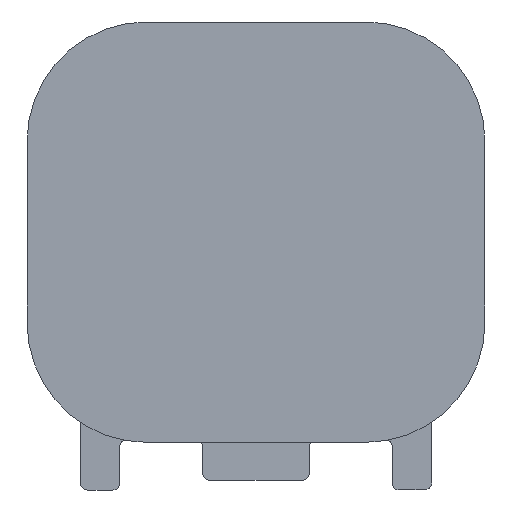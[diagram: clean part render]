
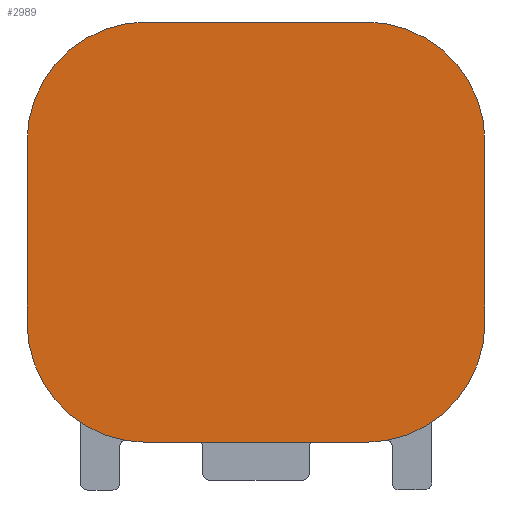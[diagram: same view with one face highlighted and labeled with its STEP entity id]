
A CAD part, front view. The second image highlights one B-rep face of the part: STEP entity #2989.
In plain terms, the highlighted planar face has unit normal (0, -1, 0).
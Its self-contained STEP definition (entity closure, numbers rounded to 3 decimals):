
#2918=CARTESIAN_POINT('Axis2P3D Location',(0.,-1.5,0.)) ;
#2923=CARTESIAN_POINT('Axis2P3D Location',(3.8,-1.5,3.15)) ;
#2927=CARTESIAN_POINT('Vertex',(7.931,-1.5,3.15)) ;
#2929=CARTESIAN_POINT('Vertex',(3.8,-1.5,7.281)) ;
#2932=CARTESIAN_POINT('Line Origine',(0.,-1.5,7.281)) ;
#2936=CARTESIAN_POINT('Vertex',(-3.8,-1.5,7.281)) ;
#2939=CARTESIAN_POINT('Axis2P3D Location',(-3.8,-1.5,3.15)) ;
#2943=CARTESIAN_POINT('Vertex',(-7.931,-1.5,3.15)) ;
#2946=CARTESIAN_POINT('Line Origine',(-7.931,-1.5,0.)) ;
#2950=CARTESIAN_POINT('Vertex',(-7.931,-1.5,-3.15)) ;
#2953=CARTESIAN_POINT('Axis2P3D Location',(-3.8,-1.5,-3.15)) ;
#2957=CARTESIAN_POINT('Vertex',(-3.8,-1.5,-7.281)) ;
#2960=CARTESIAN_POINT('Line Origine',(0.,-1.5,-7.281)) ;
#2964=CARTESIAN_POINT('Vertex',(3.8,-1.5,-7.281)) ;
#2967=CARTESIAN_POINT('Axis2P3D Location',(3.8,-1.5,-3.15)) ;
#2971=CARTESIAN_POINT('Vertex',(7.931,-1.5,-3.15)) ;
#2974=CARTESIAN_POINT('Line Origine',(7.931,-1.5,0.)) ;
#2934=VECTOR('Line Direction',#2933,1.) ;
#2948=VECTOR('Line Direction',#2947,1.) ;
#2962=VECTOR('Line Direction',#2961,1.) ;
#2976=VECTOR('Line Direction',#2975,1.) ;
#2919=DIRECTION('Axis2P3D Direction',(0.,1.,0.)) ;
#2920=DIRECTION('Axis2P3D XDirection',(0.,0.,1.)) ;
#2924=DIRECTION('Axis2P3D Direction',(0.,1.,0.)) ;
#2933=DIRECTION('Vector Direction',(-1.,0.,0.)) ;
#2940=DIRECTION('Axis2P3D Direction',(0.,1.,0.)) ;
#2947=DIRECTION('Vector Direction',(0.,0.,1.)) ;
#2954=DIRECTION('Axis2P3D Direction',(0.,1.,0.)) ;
#2961=DIRECTION('Vector Direction',(1.,0.,0.)) ;
#2968=DIRECTION('Axis2P3D Direction',(0.,1.,0.)) ;
#2975=DIRECTION('Vector Direction',(0.,0.,1.)) ;
#2921=AXIS2_PLACEMENT_3D('Plane Axis2P3D',#2918,#2919,#2920) ;
#2925=AXIS2_PLACEMENT_3D('Circle Axis2P3D',#2923,#2924,$) ;
#2941=AXIS2_PLACEMENT_3D('Circle Axis2P3D',#2939,#2940,$) ;
#2955=AXIS2_PLACEMENT_3D('Circle Axis2P3D',#2953,#2954,$) ;
#2969=AXIS2_PLACEMENT_3D('Circle Axis2P3D',#2967,#2968,$) ;
#2935=LINE('Line',#2932,#2934) ;
#2949=LINE('Line',#2946,#2948) ;
#2963=LINE('Line',#2960,#2962) ;
#2977=LINE('Line',#2974,#2976) ;
#2926=CIRCLE('generated circle',#2925,4.131) ;
#2942=CIRCLE('generated circle',#2941,4.131) ;
#2956=CIRCLE('generated circle',#2955,4.131) ;
#2970=CIRCLE('generated circle',#2969,4.131) ;
#2922=PLANE('',#2921) ;
#2931=EDGE_CURVE('',#2928,#2930,#2926,.F.) ;
#2938=EDGE_CURVE('',#2930,#2937,#2935,.T.) ;
#2945=EDGE_CURVE('',#2937,#2944,#2942,.F.) ;
#2952=EDGE_CURVE('',#2944,#2951,#2949,.F.) ;
#2959=EDGE_CURVE('',#2951,#2958,#2956,.F.) ;
#2966=EDGE_CURVE('',#2958,#2965,#2963,.T.) ;
#2973=EDGE_CURVE('',#2965,#2972,#2970,.F.) ;
#2978=EDGE_CURVE('',#2972,#2928,#2977,.T.) ;
#2980=ORIENTED_EDGE('',*,*,#2931,.T.) ;
#2981=ORIENTED_EDGE('',*,*,#2938,.T.) ;
#2982=ORIENTED_EDGE('',*,*,#2945,.T.) ;
#2983=ORIENTED_EDGE('',*,*,#2952,.T.) ;
#2984=ORIENTED_EDGE('',*,*,#2959,.T.) ;
#2985=ORIENTED_EDGE('',*,*,#2966,.T.) ;
#2986=ORIENTED_EDGE('',*,*,#2973,.T.) ;
#2987=ORIENTED_EDGE('',*,*,#2978,.T.) ;
#2979=EDGE_LOOP('',(#2980,#2981,#2982,#2983,#2984,#2985,#2986,#2987)) ;
#2928=VERTEX_POINT('',#2927) ;
#2930=VERTEX_POINT('',#2929) ;
#2937=VERTEX_POINT('',#2936) ;
#2944=VERTEX_POINT('',#2943) ;
#2951=VERTEX_POINT('',#2950) ;
#2958=VERTEX_POINT('',#2957) ;
#2965=VERTEX_POINT('',#2964) ;
#2972=VERTEX_POINT('',#2971) ;
#2989=ADVANCED_FACE('4P LP INTEFACE - KEY A',(#2988),#2922,.F.) ;
#2988=FACE_OUTER_BOUND('',#2979,.T.) ;
